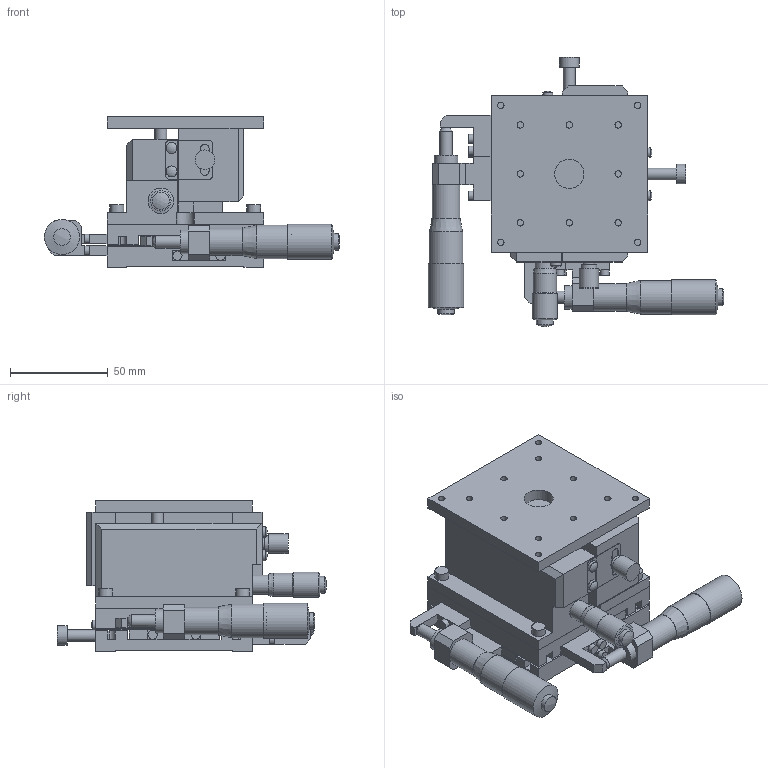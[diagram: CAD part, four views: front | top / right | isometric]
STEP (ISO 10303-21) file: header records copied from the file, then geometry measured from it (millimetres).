
FILE_DESCRIPTION( ( 'STEP AP203' ), '1' );
FILE_NAME( '//Srg14/ost事業部/技術G/Topsolid/ASSY_model/3D-Arrenge/データ登録確認/3D_B72-80C+070821.step', '2008-06-02T01:31:06', ( ' ' ), ( ' ' ), 'XStep 1.0', ' ', ' ' );
FILE_SCHEMA( ( 'CONFIG_CONTROL_DESIGN' ) );
Length unit declared in the file: millimetre
Products named in the file (9): 1; 2; 3; 4; 5; 6; 7; 8; 9
Bounding box: 150.87 x 137.65 x 77 mm (x, y, z)
Volume: 412008.8 mm3; surface area: 136655.8 mm2
Topology: 9 solids, 9 shells, 417 faces, 1067 edges, 694 vertices
Faces by surface type: plane 276, cylinder 118, sphere 13, cone 10
Full cylindrical faces by diameter (mm): 3 x2, 3.3 x24, 4 x1, 4.5 x4, 4.7 x8, 5 x8, 5.6 x2, 6 x4, 6.35 x2, 6.5 x2, 7 x4, 8 x6, 8.6 x3, 9 x1, 10 x4, 10.5 x1, 12 x3, 13 x1, 14 x2, 15 x2, 16.8 x2, 17.2 x2, 18 x2
Entity records: 12087 total; most frequent: DIRECTION 2021, CARTESIAN_POINT 1979, ORIENTED_EDGE 1818, EDGE_CURVE 909, AXIS2_PLACEMENT_3D 686, LINE 649, VECTOR 649, VERTEX_POINT 644
